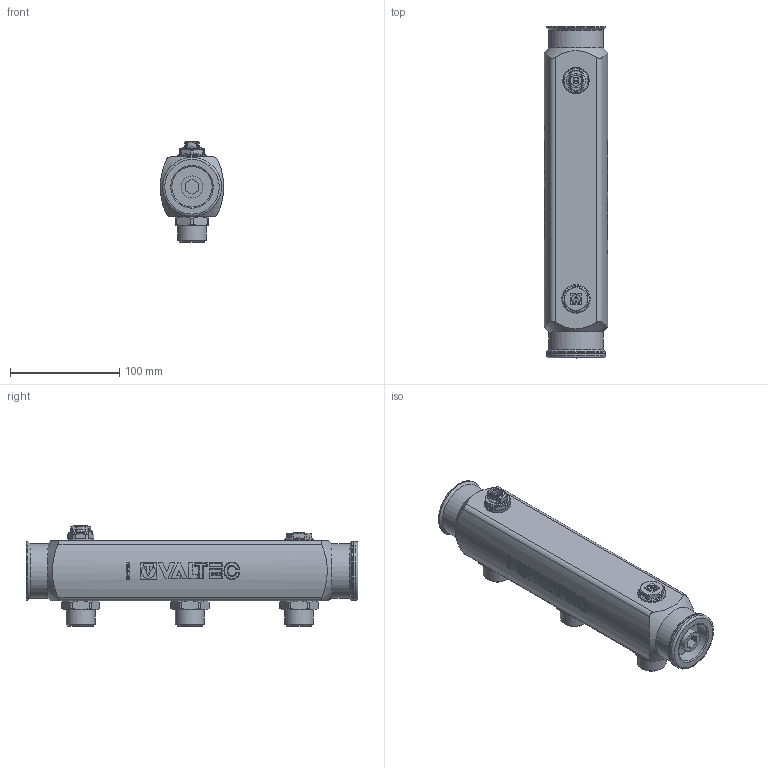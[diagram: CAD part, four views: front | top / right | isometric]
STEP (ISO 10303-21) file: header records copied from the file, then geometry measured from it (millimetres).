
FILE_DESCRIPTION(('STEP AP203'), '1');
FILE_NAME('VTc.510.SS.080503', '', ('UNSPECIFIED'), ('UNSPECIFIED'), 'C3D Converter', 'C3D Toolkit', '');
FILE_SCHEMA(('CONFIG_CONTROL_DESIGN'));
Length unit declared in the file: millimetre
Bounding box: 58 x 304 x 91.6 mm (x, y, z)
Volume: 831214.2 mm3; surface area: 82407.8 mm2
Topology: 1 solids, 7 shells, 889 faces, 2274 edges, 1465 vertices
Faces by surface type: plane 361, extrusion 220, cylinder 137, cone 88, bspline 69, torus 14
Full cylindrical faces by diameter (mm): 5 x1, 5.3 x1, 10.2 x1, 19.5 x3, 20 x1, 22 x1, 24 x1, 26 x1, 26.441 x3, 37 x1, 44.846 x1, 50 x2, 54 x3
Entity records: 47689 total; most frequent: CARTESIAN_POINT 28344, ORIENTED_EDGE 4408, DIRECTION 3069, EDGE_CURVE 2204, VERTEX_POINT 1453, VECTOR 1145, B_SPLINE_CURVE_WITH_KNOTS 1058, EDGE_LOOP 989
